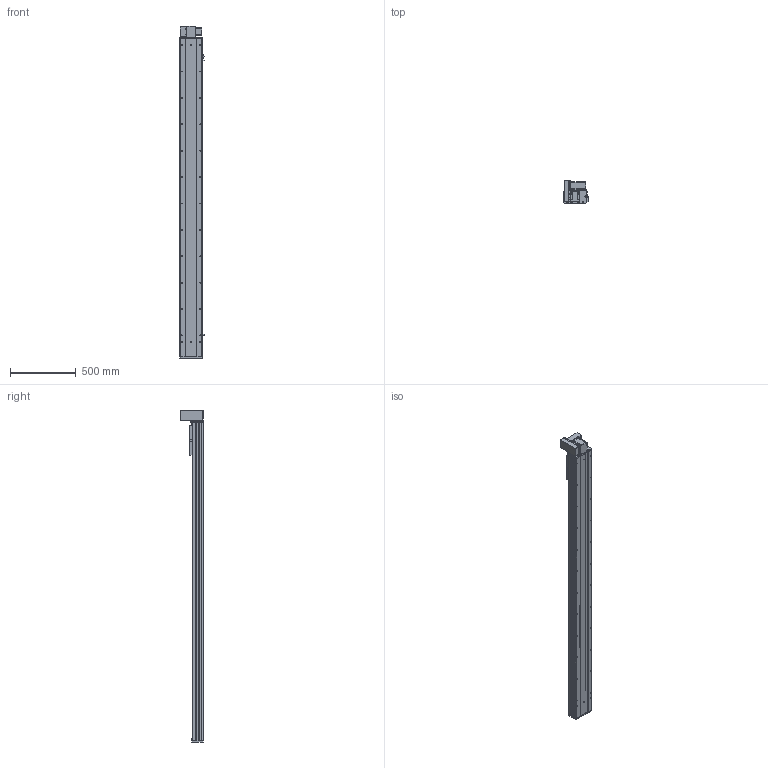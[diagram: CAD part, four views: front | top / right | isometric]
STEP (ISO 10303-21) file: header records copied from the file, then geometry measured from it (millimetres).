
FILE_DESCRIPTION (( 'STEP AP203' ), '1' );
FILE_NAME ('Y170CB-D105-S2100-UL-P400W.STEP', '2020-02-20T02:53:36', ( '微软用户' ), ( '微软中国' ), 'SwSTEP 2.0', 'SolidWorks 2017', '' );
FILE_SCHEMA (( 'CONFIG_CONTROL_DESIGN' ));
Length unit declared in the file: millimetre
Products named in the file (18): --70CB --喘謫眊楊擘啣-; Y170CB-D105-S2100-UL-P400W; 70B喘謫眊----; 70CB-耜裔啣-; Y1埴倛裔; 70C--詩湍揤踡え-; 70CB--耜裔; 70C-雄赽釱-奻-; B-源倛裔啣; 0C--雄赽釱俋欶-170; 0B-萇儂楊擘啣; 70CB-詩湍--; san松下电机400不带刹车----; 17B-耜蚾蟀諉啣----; Y100-135俋离換覜ん--; 70CB-掛极-; 00B-俋欶BM--163; Y170CB-陔俋离換覜結え---
Assembly tree (21 placements, depth 2):
  Y170CB-D105-S2100-UL-P400W
    B-源倛裔啣
    0B-萇儂楊擘啣
    san松下电机400不带刹车----
    70CB-掛极-
    --70CB --喘謫眊楊擘啣-
    70CB-耜裔啣-  x2
    70C--詩湍揤踡え-  x2
    70CB--耜裔
    70C-雄赽釱-奻-
    0C--雄赽釱俋欶-170
    70CB-詩湍--
    Y100-135俋离換覜ん--  x3
    Y170CB-陔俋离換覜結え---
    70B喘謫眊----
    Y1埴倛裔
    17B-耜蚾蟀諉啣----
    00B-俋欶BM--163
Bounding box: 183.5 x 174 x 2516 mm (x, y, z)
Volume: 10869986.1 mm3; surface area: 3920988.6 mm2
Topology: 21 solids, 21 shells, 1055 faces, 2837 edges, 1882 vertices
Faces by surface type: cylinder 569, plane 462, cone 24
Entity records: 33788 total; most frequent: CARTESIAN_POINT 6216, DIRECTION 5498, ORIENTED_EDGE 5156, EDGE_CURVE 2578, AXIS2_PLACEMENT_3D 2028, VERTEX_POINT 1712, VECTOR 1442, LINE 1442
